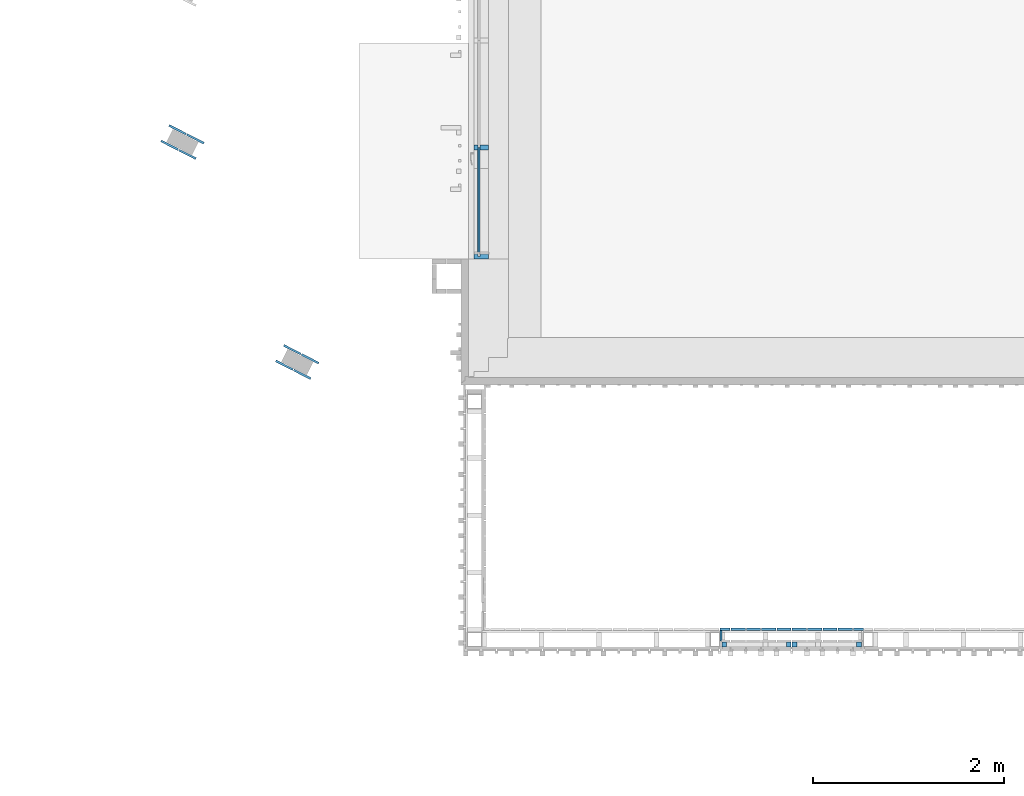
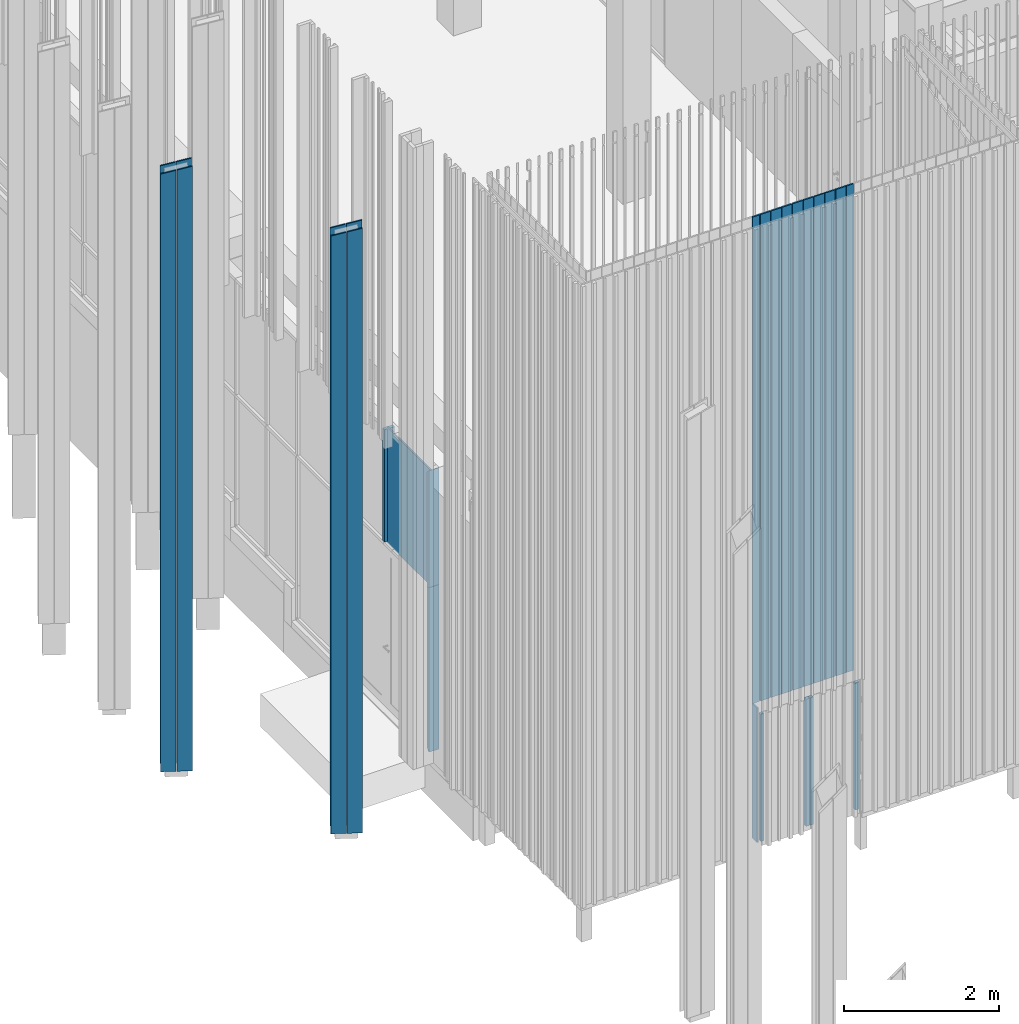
# One storey, part 29 of 390: 27 discrete accessories, 1 element without a shape of its own.
"""IFC2X3 building model written with IfcOpenShell, lengths in millimetres."""

from ifc_helpers import new_model, entity, si_unit, converted_unit, derived_unit, money_unit, direction, frame, origin_with_axes, origin_2d_with_axis, place, context, subcontext, project, spatial, polyline, rectangle, hollow_rectangle, outline, composite_profile, extrude, clip, halfspace, faceted_brep, source, transform, mapped, material, material_list, type_object, element, aggregate, save


model = new_model("IFC2X3")

# Units and contexts
model_context = context("Model", 3, precision=1e-05, world=origin_with_axes(), true_north=direction((0.0, 1.0)))
body_context = subcontext(model_context, "Body", "Model", "MODEL_VIEW")
ifc_project = project(units=[si_unit("LENGTHUNIT", "METRE", prefix="MILLI"), si_unit("AREAUNIT", "SQUARE_METRE"), si_unit("VOLUMEUNIT", "CUBIC_METRE"), converted_unit("PLANEANGLEUNIT", "DEGREE", entity("IfcPlaneAngleMeasure", 0.0174532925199), si_unit("PLANEANGLEUNIT", "RADIAN"), dimensions=[0, 0, 0, 0, 0, 0, 0]), si_unit("SOLIDANGLEUNIT", "STERADIAN"), money_unit("EUR"), converted_unit("TIMEUNIT", "Year", entity("IfcTimeMeasure", 31556926.0), si_unit("TIMEUNIT", "SECOND"), dimensions=[0, 0, 1, 0, 0, 0, 0]), si_unit("MASSUNIT", "GRAM", prefix="KILO"), si_unit("THERMODYNAMICTEMPERATUREUNIT", "DEGREE_CELSIUS"), si_unit("LUMINOUSINTENSITYUNIT", "LUMEN"), si_unit("ENERGYUNIT", "JOULE", prefix="MEGA"), derived_unit("THERMALCONDUCTANCEUNIT", [(si_unit("POWERUNIT", "WATT"), 1), (si_unit("LENGTHUNIT", "METRE"), -1), (si_unit("THERMODYNAMICTEMPERATUREUNIT", "KELVIN"), -1)]), derived_unit("SPECIFICHEATCAPACITYUNIT", [(si_unit("ENERGYUNIT", "JOULE"), 1), (si_unit("MASSUNIT", "GRAM", prefix="KILO"), -1), (si_unit("THERMODYNAMICTEMPERATUREUNIT", "KELVIN"), -1)]), derived_unit("MASSDENSITYUNIT", [(si_unit("MASSUNIT", "GRAM", prefix="KILO"), 1), (si_unit("VOLUMEUNIT", "CUBIC_METRE"), -1)])], contexts=[model_context])

# Site, building, storey
site_placement = place(None, origin_with_axes())
site = spatial("IfcSite", under=ifc_project, at=site_placement, Name="Site", CompositionType="ELEMENT")
building_placement = place(site_placement, origin_with_axes())
building = spatial("IfcBuilding", under=site, at=building_placement, Name="Building", CompositionType="ELEMENT")
storey_placement = place(building_placement, origin_with_axes())
storey = spatial("IfcBuildingStorey", under=building, at=storey_placement, Name="1 korrus", CompositionType="ELEMENT", Elevation=0.0)

# Discrete accessories
ifc_material_1 = material(Name="Site specified")
discrete_accessory_type_1 = type_object("IfcDiscreteAccessoryType", Name="Site specified 150 x 22")
for number, where, z_axis, x_axis in (
    (1, (125470.002725, 42707.0093613, 2220.00000001), (0.0, 0.0, 1.0), (-1.0, 0.0, 0.0)),
    (2, (126110.002725, 42707.0093613, 2220.00000001), (0.0, 0.0, 1.0), (-1.0, 0.0, 0.0)),
    (3, (126430.002725, 42707.0093613, 2220.00000001), (0.0, 0.0, 1.0), (-1.0, 0.0, 0.0)),
    (4, (125790.002725, 42707.0093613, 2220.00000001), (0.0, 0.0, 1.0), (-1.0, 0.0, 0.0)),
    (5, (125950.002725, 42707.0093613, 2220.00000001), (0.0, 0.0, 1.0), (-1.0, 0.0, 0.0)),
    (6, (125310.002725, 42707.0093613, 2220.00000001), (0.0, 0.0, 1.0), (-1.0, 0.0, 0.0)),
    (7, (125630.002725, 42707.0093613, 2220.00000001), (0.0, 0.0, 1.0), (-1.0, 0.0, 0.0)),
    (8, (126270.002725, 42707.0093613, 2220.00000001), (0.0, 0.0, 1.0), (-1.0, 0.0, 0.0)),
):
    element("IfcDiscreteAccessory", number, at=place(storey_placement, frame(where, z_axis=z_axis, x_axis=x_axis)), inside=storey, type_object=discrete_accessory_type_1, material=ifc_material_1, Name="Puitfassaadi laudis", context=body_context, shape_type="SweptSolid", body=[
        extrude(rectangle(XDim=150.0, YDim=22.0000000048, at=origin_2d_with_axis()), origin_with_axes(), (0.0, 0.0, 1.0), 7644.99999999),
    ])
ifc_material_2 = material(Name="GENEERILINE - VÄLINE VOODER")
discrete_accessory_type_2 = type_object("IfcDiscreteAccessoryType", Name="GENEERILINE - VÄLINE VOODER")
shared_shape_1 = source(origin_with_axes(), body_context, "Body", "Brep", [
    faceted_brep([(162190.360855, 119453.798876, 100.0), (162190.360855, 119453.798876, 9600.0), (162168.524839, 119456.480002, 9600.0), (162168.524839, 119456.480002, 100.0), (162214.734723, 119652.308107, 100.0), (162214.734723, 119652.308107, 9546.41016151), (162192.898708, 119654.989232, 9546.41016151), (162192.898708, 119654.989232, 100.0)], [[[0, 1, 2, 3]], [[1, 0, 4, 5]], [[2, 1, 5, 6]], [[3, 2, 6, 7]], [[0, 3, 7, 4]], [[7, 6, 5, 4]]]),
])
for number, where, z_axis, x_axis in (
    (9, (177623.819958, -147927.598652, 0.0), (0.0, 0.0, 1.0), (0.342020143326, 0.939692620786, 0.0)),
    (10, (176423.819958, -145627.598652, 0.0), (0.0, 0.0, 1.0), (0.342020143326, 0.939692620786, 0.0)),
):
    element("IfcDiscreteAccessory", number, at=place(storey_placement, frame(where, z_axis=z_axis, x_axis=x_axis)), inside=storey, type_object=discrete_accessory_type_2, material=ifc_material_2, Name="Päikesevarjestuspost", context=body_context, shape_type="MappedRepresentation", body=[
        mapped(shared_shape_1, transform((0.0, 0.0, 0.0))),
    ])
shared_shape_2 = source(origin_with_axes(), body_context, "Body", "Brep", [
    faceted_brep([(162194.117401, 119664.914694, 100.0), (162215.953417, 119662.233568, 100.0), (162215.953417, 119662.233568, 9543.73066959), (162194.117401, 119664.914694, 9543.73066959), (162218.49127, 119863.423924, 100.0), (162240.327285, 119860.742798, 100.0), (162240.327285, 119860.742798, 9490.1408311), (162218.49127, 119863.423924, 9490.1408311)], [[[0, 1, 2, 3]], [[1, 0, 4, 5]], [[2, 1, 5, 6]], [[3, 2, 6, 7]], [[0, 3, 7, 4]], [[4, 7, 6, 5]]]),
])
for number, where, z_axis, x_axis in (
    (11, (177623.819958, -147927.598652, 0.0), (0.0, 0.0, 1.0), (0.342020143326, 0.939692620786, 0.0)),
    (12, (176423.819958, -145627.598652, 0.0), (0.0, 0.0, 1.0), (0.342020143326, 0.939692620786, 0.0)),
):
    element("IfcDiscreteAccessory", number, at=place(storey_placement, frame(where, z_axis=z_axis, x_axis=x_axis)), inside=storey, type_object=discrete_accessory_type_2, material=ifc_material_2, Name="Päikesevarjestuspost", context=body_context, shape_type="MappedRepresentation", body=[
        mapped(shared_shape_2, transform((0.0, 0.0, 0.0))),
    ])
shared_shape_3 = source(origin_with_axes(), body_context, "Body", "Brep", [
    faceted_brep([(-162194.117401, 119664.914694, 100.0), (-162194.117401, 119664.914694, 9543.73066959), (-162215.953417, 119662.233568, 9543.73066959), (-162215.953417, 119662.233568, 100.0), (-162218.49127, 119863.423924, 100.0), (-162218.49127, 119863.423924, 9490.1408311), (-162240.327285, 119860.742798, 9490.1408311), (-162240.327285, 119860.742798, 100.0)], [[[0, 1, 2, 3]], [[0, 4, 5, 1]], [[1, 5, 6, 2]], [[2, 6, 7, 3]], [[3, 7, 4, 0]], [[4, 7, 6, 5]]]),
])
for number, where, z_axis, x_axis in (
    (13, (310646.361817, 113143.839524, 0.0), (0.0, 0.0, 1.0), (0.559192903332, 0.829037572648, 0.0)),
    (14, (309446.361817, 115443.839524, 0.0), (0.0, 0.0, 1.0), (0.559192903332, 0.829037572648, 0.0)),
):
    element("IfcDiscreteAccessory", number, at=place(storey_placement, frame(where, z_axis=z_axis, x_axis=x_axis)), inside=storey, type_object=discrete_accessory_type_2, material=ifc_material_2, Name="Päikesevarjestuspost", context=body_context, shape_type="MappedRepresentation", body=[
        mapped(shared_shape_3, transform((0.0, 0.0, 0.0))),
    ])
shared_shape_4 = source(origin_with_axes(), body_context, "Body", "Brep", [
    faceted_brep([(-162190.360855, 119453.798876, 100.0), (-162168.524839, 119456.480002, 100.0), (-162168.524839, 119456.480002, 9600.0), (-162190.360855, 119453.798876, 9600.0), (-162214.734723, 119652.308107, 100.0), (-162192.898708, 119654.989232, 100.0), (-162192.898708, 119654.989232, 9546.41016151), (-162214.734723, 119652.308107, 9546.41016151)], [[[0, 1, 2, 3]], [[0, 4, 5, 1]], [[1, 5, 6, 2]], [[2, 6, 7, 3]], [[3, 7, 4, 0]], [[5, 4, 7, 6]]]),
])
for number, where, z_axis, x_axis in (
    (15, (310646.361817, 113143.839524, 0.0), (0.0, 0.0, 1.0), (0.559192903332, 0.829037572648, 0.0)),
    (16, (309446.361817, 115443.839524, 0.0), (0.0, 0.0, 1.0), (0.559192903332, 0.829037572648, 0.0)),
):
    element("IfcDiscreteAccessory", number, at=place(storey_placement, frame(where, z_axis=z_axis, x_axis=x_axis)), inside=storey, type_object=discrete_accessory_type_2, material=ifc_material_2, Name="Päikesevarjestuspost", context=body_context, shape_type="MappedRepresentation", body=[
        mapped(shared_shape_4, transform((0.0, 0.0, 0.0))),
    ])

# Curtain wall, discrete accessories
curtain_wall_type = type_object("IfcCurtainWallType", Name="KLF-14", PredefinedType="NOTDEFINED")
curtain_wall_placement = place(storey_placement, frame((122599.999993, 59672.5295083, -0.000201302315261), z_axis=(0.0, 0.0, 1.0), x_axis=(1.0, 0.0, 0.0)))
curtain_wall = element("IfcCurtainWall", 17, at=curtain_wall_placement, inside=storey, type_object=curtain_wall_type, Name="Klaasfassaad")
ifc_material_3 = material(Name="Klaas")
discrete_accessory_type_3 = type_object("IfcDiscreteAccessoryType", Name="Distinct Panel 50 x 1820 x 20")
discrete_accessory_1_placement = place(curtain_wall_placement, frame((2.13549355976e-06, -12548.2169978, 3505.00001642), z_axis=(0.0, 0.0, 1.0), x_axis=(1.70182006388e-10, -1.0, 0.0)))
discrete_accessory_1 = element("IfcDiscreteAccessory", 18, at=discrete_accessory_1_placement, type_object=discrete_accessory_type_3, material=ifc_material_3, Name="KLF-14 klaaspakett", context=body_context, shape_type="SweptSolid", body=[
    extrude(outline(polyline([(-619.787490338, -899.999839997), (524.312429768, -899.999949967), (524.312429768, 919.999878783), (-619.787490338, 919.999878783), (-619.787490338, -899.999839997)])), frame((0.0, -10.0, 0.0), z_axis=(0.0, 1.0, 0.0), x_axis=(1.0, 0.0, 0.0)), (0.0, 0.0, 1.0), 20.0),
])
ifc_material_4 = material(Name="Aluminium MUST")
ifc_material_list_1 = material_list([ifc_material_4, ifc_material_4])
discrete_accessory_type_4 = type_object("IfcDiscreteAccessoryType", Name="50 x 150")
discrete_accessory_2_placement = place(curtain_wall_placement, frame((2.03000638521e-06, -11928.429496, 2585.00012874), z_axis=(0.0, 0.0, 1.0), x_axis=(1.7018114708e-10, -1.0, 0.0)))
discrete_accessory_2 = element("IfcDiscreteAccessory", 19, at=discrete_accessory_2_placement, type_object=discrete_accessory_type_4, material=ifc_material_list_1, Name="KLF-14 profiil", context=body_context, shape_type="SweptSolid", body=[
    extrude(outline(polyline([(100.000000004, -24.999999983), (99.9999999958, 25.000000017), (9.99999999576, 25.0000000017), (10.0000000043, -24.9999999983), (100.000000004, -24.999999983)])), frame((0.0, 0.0, 25.0), z_axis=(0.0, 0.0, 1.0), x_axis=(1.7018114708e-10, 1.0, 0.0)), (0.0, 0.0, 1.0), 1764.99973357),
    extrude(outline(polyline([(-50.0000000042, 24.9999999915), (-49.9999999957, -25.0000000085), (-9.99999999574, -25.0000000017), (-10.0000000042, 24.9999999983), (-50.0000000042, 24.9999999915)])), frame((0.0, 0.0, 25.0), z_axis=(0.0, 0.0, 1.0), x_axis=(1.7018114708e-10, 1.0, 0.0)), (0.0, 0.0, 1.0), 1764.99973357),
])
ifc_material_list_2 = material_list([ifc_material_4, ifc_material_4, ifc_material_4])
discrete_accessory_3_placement = place(curtain_wall_placement, frame((2.2281199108e-06, -13092.5294356, 2585.00012874), z_axis=(0.0, 0.0, -1.0), x_axis=(-1.70182006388e-10, 1.0, 0.0)))
discrete_accessory_3 = element("IfcDiscreteAccessory", 20, at=discrete_accessory_3_placement, type_object=discrete_accessory_type_4, material=ifc_material_list_2, Name="KLF-14 profiil", context=body_context, shape_type="Clipping", body=[
    clip(extrude(outline(polyline([(9.99999999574, -25.0000000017), (10.0, -1.69819713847e-09), (-10.0, 1.71240799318e-09), (-10.0000000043, -24.9999999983), (9.99999999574, -25.0000000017)])), frame((0.0, 0.0, 0.0), z_axis=(0.0, 0.0, 1.0), x_axis=(-1.70182006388e-10, 1.0, 0.0)), (0.0, 0.0, 1.0), 2585.00012874), halfspace(frame((1292.50006437, 0.0, 1292.50006437), z_axis=(-0.707106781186, 0.0, -0.707106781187), x_axis=(0.0, 1.0, 0.0)), True)),
    clip(extrude(outline(polyline([(99.9999999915, -50.000000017), (100.0, -1.70174985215e-08), (10.0, -1.69819713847e-09), (9.99999999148, -50.0000000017), (99.9999999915, -50.000000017)])), frame((0.0, 0.0, 0.0), z_axis=(0.0, 0.0, 1.0), x_axis=(-1.70182006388e-10, 1.0, 0.0)), (0.0, 0.0, 1.0), 2585.00012874), halfspace(frame((1292.50006437, 0.0, 1292.50006437), z_axis=(-0.707106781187, 0.0, -0.707106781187), x_axis=(0.0, 1.0, 0.0)), True)),
    clip(extrude(outline(polyline([(-50.0, 8.51940740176e-09), (-50.0000000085, -49.9999999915), (-10.0000000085, -49.9999999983), (-10.0, 1.71240799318e-09), (-50.0, 8.51940740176e-09)])), frame((0.0, 0.0, 0.0), z_axis=(0.0, 0.0, 1.0), x_axis=(-1.70182006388e-10, 1.0, 0.0)), (0.0, 0.0, 1.0), 2585.00012874), halfspace(frame((1292.50006437, 0.0, 1292.50006437), z_axis=(-0.707106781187, 0.0, -0.707106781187), x_axis=(0.0, 1.0, 0.0)), True)),
])
discrete_accessory_4_placement = place(curtain_wall_placement, frame((2.2281199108e-06, -13092.5294356, 4425.00002946), z_axis=(0.0, 0.0, -1.0), x_axis=(-1.70182006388e-10, 1.0, 0.0)))
discrete_accessory_4 = element("IfcDiscreteAccessory", 21, at=discrete_accessory_4_placement, type_object=discrete_accessory_type_4, material=ifc_material_list_2, Name="KLF-14 profiil", context=body_context, shape_type="Clipping", body=[
    clip(extrude(outline(polyline([(9.99999999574, -25.0000000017), (10.0, -1.69819713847e-09), (-10.0, 1.71240799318e-09), (-10.0000000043, -24.9999999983), (9.99999999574, -25.0000000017)])), frame((0.0, 0.0, 0.0), z_axis=(0.0, 0.0, 1.0), x_axis=(-1.70182006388e-10, 1.0, 0.0)), (0.0, 0.0, 1.0), 1839.99990072), halfspace(frame((0.0, 0.0, 0.0), z_axis=(-0.707107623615, 0.0, 0.707105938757), x_axis=(0.0, -1.0, 0.0)), True)),
    clip(extrude(outline(polyline([(99.9999999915, -50.000000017), (100.0, -1.70174985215e-08), (10.0, -1.69819713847e-09), (9.99999999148, -50.0000000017), (99.9999999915, -50.000000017)])), frame((0.0, 0.0, 0.0), z_axis=(0.0, 0.0, 1.0), x_axis=(-1.70182006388e-10, 1.0, 0.0)), (0.0, 0.0, 1.0), 1839.99990072), halfspace(frame((0.0, 0.0, 0.0), z_axis=(-0.707107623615, 0.0, 0.707105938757), x_axis=(0.0, -1.0, 0.0)), True)),
    clip(extrude(outline(polyline([(-50.0, 8.51940740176e-09), (-50.0000000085, -49.9999999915), (-10.0000000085, -49.9999999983), (-10.0, 1.71240799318e-09), (-50.0, 8.51940740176e-09)])), frame((0.0, 0.0, 0.0), z_axis=(0.0, 0.0, 1.0), x_axis=(-1.70182006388e-10, 1.0, 0.0)), (0.0, 0.0, 1.0), 1839.99990072), halfspace(frame((0.0, 0.0, 0.0), z_axis=(-0.707107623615, 0.0, 0.707105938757), x_axis=(0.0, -1.0, 0.0)), True)),
])
aggregate(curtain_wall, [discrete_accessory_1, discrete_accessory_2, discrete_accessory_3, discrete_accessory_4])

# Discrete accessories
discrete_accessory_type_5 = type_object("IfcDiscreteAccessoryType", Name="Site specified 130 x 22")
discrete_accessory_5_placement = place(storey_placement, frame((125130.99996, 42652.000112, 100.000000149), z_axis=(0.0, 0.0, 1.0), x_axis=(0.0, -1.0, 0.0)))
element("IfcDiscreteAccessory", 22, at=discrete_accessory_5_placement, inside=storey, type_object=discrete_accessory_type_5, material=ifc_material_1, Name="Puitfassaadi laudis", context=body_context, shape_type="SweptSolid", body=[
    extrude(rectangle(XDim=130.0, YDim=22.0000000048, at=origin_2d_with_axis()), origin_with_axes(), (0.0, 0.0, 1.0), 2119.99999987),
])
ifc_material_5 = material(Name="Teras (musta värvi)")
ifc_material_list_3 = material_list([ifc_material_5, ifc_material_5])
discrete_accessory_type_6 = type_object("IfcDiscreteAccessoryType", Name="Teras (musta värvi) 42 x 42")
for number, where, z_axis, x_axis, name in (
    (23, (126574.999961, 42549.0000744, 150.0), (0.0, 0.0, 1.0), (1.0, 0.0, 0.0), "Metall-raam"),
    (24, (125899.999961, 42549.0000294, 150.0), (0.0, 0.0, 1.0), (1.0, 0.0, 0.0), "Metall-raam"),
):
    element("IfcDiscreteAccessory", number, at=place(storey_placement, frame(where, z_axis=z_axis, x_axis=x_axis)), inside=storey, type_object=discrete_accessory_type_6, material=ifc_material_list_3, Name=name, context=body_context, shape_type="SweptSolid", body=[
        extrude(composite_profile([hollow_rectangle(XDim=50.0, YDim=50.0, WallThickness=4.0, at=origin_2d_with_axis()), rectangle(XDim=42.0, YDim=42.0, at=origin_2d_with_axis())]), frame((0.0, 0.0, 0.0), z_axis=(0.0, 0.0, -1.0), x_axis=(-1.0, 0.0, 0.0)), (0.0, 0.0, -1.0), 2000.0),
    ])
for number, where, z_axis, x_axis, name in (
    (25, (125164.999959, 42549.0000975, 150.0), (0.0, 0.0, 1.0), (1.0, 0.0, 0.0), "Metall-raam"),
    (26, (125839.999959, 42549.0000525, 150.0), (0.0, 0.0, 1.0), (1.0, 0.0, 0.0), "Metall-raam"),
):
    element("IfcDiscreteAccessory", number, at=place(storey_placement, frame(where, z_axis=z_axis, x_axis=x_axis)), inside=storey, type_object=discrete_accessory_type_6, material=ifc_material_list_3, Name=name, context=body_context, shape_type="SweptSolid", body=[
        extrude(composite_profile([hollow_rectangle(XDim=50.0, YDim=50.0, WallThickness=4.0, at=origin_2d_with_axis()), rectangle(XDim=42.0, YDim=42.0, at=origin_2d_with_axis())]), origin_with_axes(), (0.0, 0.0, 1.0), 2000.0),
    ])
discrete_accessory_type_7 = type_object("IfcDiscreteAccessoryType", Name="Site specified 105 x 22")
discrete_accessory_6_placement = place(storey_placement, frame((126567.502725, 42707.0093688, 2220.00000001), z_axis=(0.0, 0.0, 1.0), x_axis=(-1.0, 0.0, 0.0)))
element("IfcDiscreteAccessory", 27, at=discrete_accessory_6_placement, inside=storey, type_object=discrete_accessory_type_7, material=ifc_material_1, Name="Puitfassaadi laudis", context=body_context, shape_type="SweptSolid", body=[
    extrude(rectangle(XDim=104.999999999, YDim=22.0000000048, at=origin_2d_with_axis()), origin_with_axes(), (0.0, 0.0, 1.0), 7644.99999999),
])
discrete_accessory_7_placement = place(storey_placement, frame((125172.502725, 42707.0093688, 2220.00000001), z_axis=(0.0, 0.0, 1.0), x_axis=(-1.0, 0.0, 0.0)))
element("IfcDiscreteAccessory", 28, at=discrete_accessory_7_placement, inside=storey, type_object=discrete_accessory_type_7, material=ifc_material_1, Name="Puitfassaadi laudis", context=body_context, shape_type="SweptSolid", body=[
    extrude(rectangle(XDim=105.0, YDim=22.0000000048, at=origin_2d_with_axis()), origin_with_axes(), (0.0, 0.0, 1.0), 7644.99999999),
])

save(model, "model.ifc")
